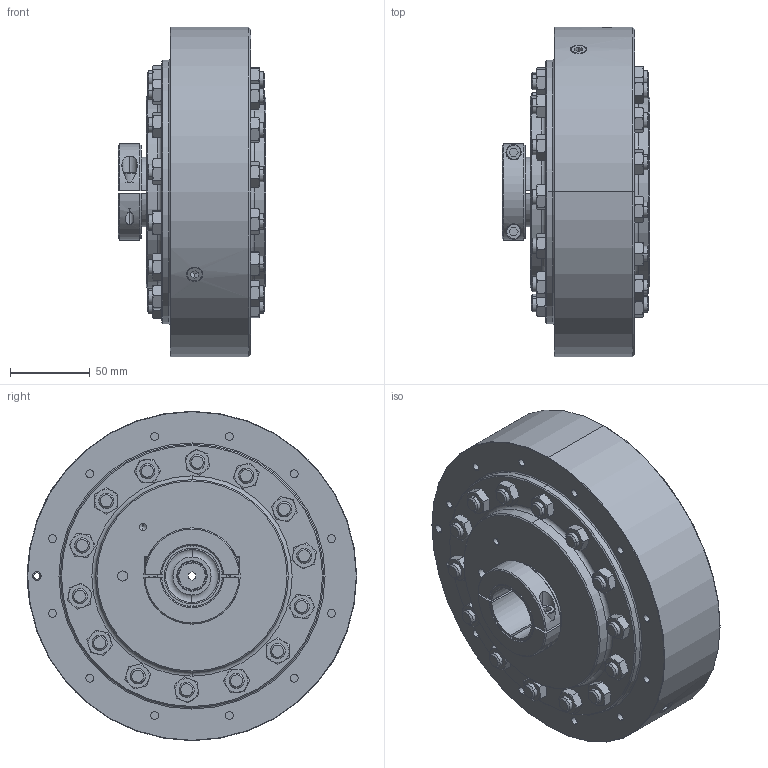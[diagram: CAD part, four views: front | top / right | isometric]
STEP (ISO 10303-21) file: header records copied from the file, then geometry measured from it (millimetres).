
FILE_DESCRIPTION (( 'STEP AP214' ), '1' );
FILE_NAME ('DN05RRRFTLN0000.STEP', '2019-10-30T17:01:27', ( '' ), ( '' ), 'SwSTEP 2.0', 'SolidWorks 2019', '' );
FILE_SCHEMA (( 'AUTOMOTIVE_DESIGN' ));
Length unit declared in the file: millimetre
Products named in the file (1): DN05RRRFTLN0000
Bounding box: 92.45 x 206.38 x 206.38 mm (x, y, z)
Surface area: 164068.6 mm2 (no closed solid volume)
Topology: 0 solids, 75 shells, 797 faces, 2063 edges, 1338 vertices
Faces by surface type: cone 322, plane 299, cylinder 157, torus 12, bspline 7
Entity records: 36960 total; most frequent: CARTESIAN_POINT 9645, DIRECTION 3842, ORIENTED_EDGE 3510, EDGE_CURVE 2061, AXIS2_PLACEMENT_3D 1607, VERTEX_POINT 1338, EDGE_LOOP 907, CIRCLE 816
